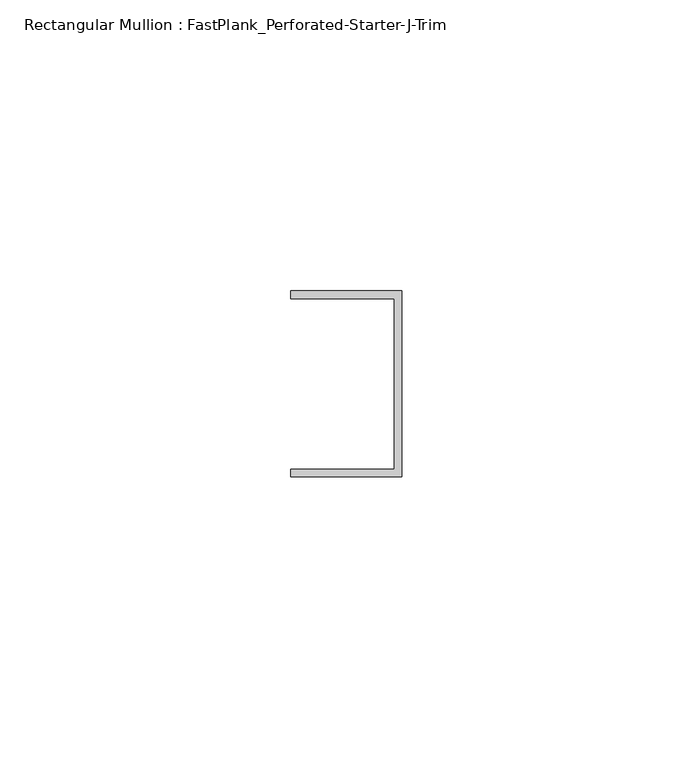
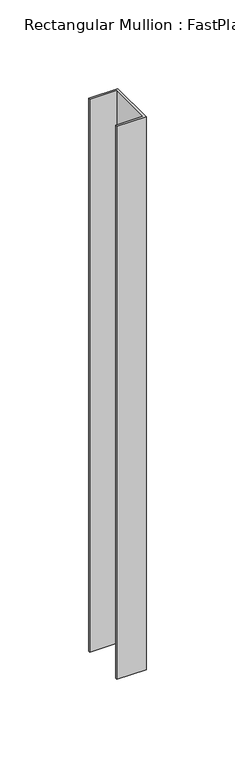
"""IFC4 building model written with IfcOpenShell, lengths in millimetres: member geometry, Rectangular Mullion : FastPlank_Perforated-Starter-J-Trim."""

import ifcopenshell
import ifcopenshell.guid

model = None  # the IFC model being written
_history = None  # IfcOwnerHistory: only IFC2X3 demands one
_inside = {}  # id of a spatial element -> (the spatial element, [elements in it])
_under = {}  # id of a project, library or spatial element -> (it, [spatial elements below it])
_declared = {}  # id of a project -> (the project, [libraries it declares])
_typed = {}  # id of a type object -> (the type object, [elements of that type])
_made_of = {}  # id of a material, layer set ... -> (it, [elements and type objects made of it])


def new_model(schema):
    """Start an empty IFC model of exactly this schema.

    Asked for "IFC4X3", IfcOpenShell would pick the latest addendum, in which some entities
    have other attributes; the version numbers below select the first issue.
    IFC2X3 requires an IfcOwnerHistory on every rooted entity: one is made here for all.
    """
    global model, _history
    if schema == "IFC4X3":
        model = ifcopenshell.file(schema_version=(4, 3, 0, 0))
    else:
        model = ifcopenshell.file(schema=schema)
    _inside.clear()
    _under.clear()
    _declared.clear()
    _typed.clear()
    _made_of.clear()
    _history = None
    if model.schema == "IFC2X3":
        org = make("IfcOrganization", Name="unknown")
        user = make(
            "IfcPersonAndOrganization",
            ThePerson=make("IfcPerson", FamilyName="unknown"),
            TheOrganization=org,
        )
        app = make(
            "IfcApplication",
            ApplicationDeveloper=org,
            Version="unknown",
            ApplicationFullName="unknown",
            ApplicationIdentifier="unknown",
        )
        _history = make(
            "IfcOwnerHistory",
            OwningUser=user,
            OwningApplication=app,
            ChangeAction="ADDED",
            CreationDate=0,
        )
    return model


def make(cls, **values):
    """One entity of the class cls with the attributes given. An attribute that is None is left unset."""
    return model.create_entity(
        cls, **{name: value for name, value in values.items() if value is not None}
    )


def rooted(cls, **values):
    """An entity with a GlobalId (a new one), such as an element, a storey or a relation."""
    return make(cls, GlobalId=ifcopenshell.guid.new(), OwnerHistory=_history, **values)


def si_unit(unit_type, name, prefix=None):
    """IfcSIUnit, for example si_unit("LENGTHUNIT", "METRE", prefix="MILLI")."""
    return make("IfcSIUnit", UnitType=unit_type, Prefix=prefix, Name=name)


def assignment(units):
    """IfcUnitAssignment: the units of a project."""
    return None if units is None else make("IfcUnitAssignment", Units=units)


def point(xyz):
    """IfcCartesianPoint."""
    return None if xyz is None else make("IfcCartesianPoint", Coordinates=xyz)


def direction(xyz):
    """IfcDirection."""
    return None if xyz is None else make("IfcDirection", DirectionRatios=xyz)


def frame(location, z_axis=None, x_axis=None):
    """IfcAxis2Placement3D, a coordinate frame: its origin and axes. An axis left out is left unset."""
    return make(
        "IfcAxis2Placement3D",
        Location=point(location),
        Axis=direction(z_axis),
        RefDirection=direction(x_axis),
    )


def origin():
    """The frame at (0, 0, 0) with its axes left unset."""
    return frame((0.0, 0.0, 0.0))


def place(relative_to, where):
    """IfcLocalPlacement: puts the frame where relative to a parent placement (None: the world)."""
    return make(
        "IfcLocalPlacement", PlacementRelTo=relative_to, RelativePlacement=where
    )


def context(
    kind, dimensions, precision=None, world=None, true_north=None, identifier=None
):
    """IfcGeometricRepresentationContext, for example the 3D "Model" context."""
    return make(
        "IfcGeometricRepresentationContext",
        ContextIdentifier=identifier,
        ContextType=kind,
        CoordinateSpaceDimension=dimensions,
        Precision=precision,
        WorldCoordinateSystem=world,
        TrueNorth=true_north,
    )


def project(units=None, contexts=None):
    """IfcProject with its units and contexts."""
    return rooted(
        "IfcProject",
        Name="project",
        RepresentationContexts=contexts,
        UnitsInContext=assignment(units),
    )


def spatial(cls, under=None, at=None, **own):
    """A site, building, storey or space (cls), placed at a placement, below another one or the project."""
    s = rooted(cls, ObjectPlacement=at, **own)
    if under is not None:
        _under.setdefault(under.id(), (under, []))[1].append(s)
    return s


def polyline(points):
    """IfcPolyline through the points."""
    return make("IfcPolyline", Points=[point(p) for p in points])


def outline(outer, holes=None, kind="AREA"):
    """IfcArbitraryClosedProfileDef: a profile drawn as a closed curve; with holes, ...WithVoids."""
    if holes is None:
        return make("IfcArbitraryClosedProfileDef", ProfileType=kind, OuterCurve=outer)
    return make(
        "IfcArbitraryProfileDefWithVoids",
        ProfileType=kind,
        OuterCurve=outer,
        InnerCurves=holes,
    )


def extrude(swept, where, along, depth):
    """IfcExtrudedAreaSolid: the profile swept, set in the frame where, extruded along a direction by depth."""
    return make(
        "IfcExtrudedAreaSolid",
        SweptArea=swept,
        Position=where,
        ExtrudedDirection=direction(along),
        Depth=depth,
    )


def shape(context_of_items, identifier, shape_type, items):
    """IfcShapeRepresentation: the items that make up one representation, for example the "Body"."""
    return make(
        "IfcShapeRepresentation",
        ContextOfItems=context_of_items,
        RepresentationIdentifier=identifier,
        RepresentationType=shape_type,
        Items=items,
    )


def source(mapping_origin, context_of_items, identifier, shape_type, items):
    """IfcRepresentationMap: a shape defined once, which mapped items show again and again."""
    return make(
        "IfcRepresentationMap",
        MappingOrigin=mapping_origin,
        MappedRepresentation=shape(context_of_items, identifier, shape_type, items),
    )


def transform(
    local_origin,
    x_axis=None,
    y_axis=None,
    z_axis=None,
    scale=None,
    scale2=None,
    scale3=None,
    uniform=True,
):
    """IfcCartesianTransformationOperator3D, or its non-uniform kind. x_axis, y_axis, z_axis: its Axis1, 2, 3."""
    if uniform:
        return make(
            "IfcCartesianTransformationOperator3D",
            Axis1=direction(x_axis),
            Axis2=direction(y_axis),
            LocalOrigin=point(local_origin),
            Scale=scale,
            Axis3=direction(z_axis),
        )
    return make(
        "IfcCartesianTransformationOperator3DnonUniform",
        Axis1=direction(x_axis),
        Axis2=direction(y_axis),
        LocalOrigin=point(local_origin),
        Scale=scale,
        Axis3=direction(z_axis),
        Scale2=scale2,
        Scale3=scale3,
    )


def mapped(mapping_source, mapping_target):
    """IfcMappedItem: shows the shape of a source again, moved by a transform."""
    return make(
        "IfcMappedItem", MappingSource=mapping_source, MappingTarget=mapping_target
    )


def made_of(thing, what):
    """Note that an element or type object is made of a material, layer set ...; save() writes the relation."""
    if what is not None:
        _made_of.setdefault(what.id(), (what, []))[1].append(thing)
    return thing


def element(
    cls,
    number,
    at=None,
    inside=None,
    cuts=None,
    type_object=None,
    material=None,
    context=None,
    identifier="Body",
    shape_type=None,
    held_by="IfcProductDefinitionShape",
    body=None,
    shapes=None,
    **own,
):
    """One element of the class cls, such as IfcWall. Its Tag is "e" and its number.

    at: its placement. inside: the storey or other place that contains it. cuts: it is an
    opening in that element (IfcRelVoidsElement). A single representation is given by context,
    identifier, shape_type and body (its items); several are given by shapes. held_by: the class
    of the entity that holds the representations. save() writes the other relations.
    """
    e = rooted(cls, Tag="e%d" % number, ObjectPlacement=at, **own)
    if body is not None:
        shapes = [shape(context, identifier, shape_type, body)]
    if shapes is not None:
        e.Representation = make(held_by, Representations=shapes)
    if inside is not None:
        _inside.setdefault(inside.id(), (inside, []))[1].append(e)
    if cuts is not None:
        rooted(
            "IfcRelVoidsElement", RelatingBuildingElement=cuts, RelatedOpeningElement=e
        )
    if type_object is not None:
        _typed.setdefault(type_object.id(), (type_object, []))[1].append(e)
    return made_of(e, material)


def aggregate(whole, parts):
    """IfcRelAggregates: a whole, such as a stair, and the parts it consists of."""
    return rooted("IfcRelAggregates", RelatingObject=whole, RelatedObjects=parts)


def save(model, path):
    """Write the relations noted so far, then the file.

    IfcRelAggregates (storeys below a building ...), IfcRelContainedInSpatialStructure (elements
    in a storey), IfcRelDefinesByType, IfcRelAssociatesMaterial and IfcRelDeclares: one each for
    every whole, place, type object, material and project.
    """
    for whole, parts in _under.values():
        aggregate(whole, parts)
    for where, things in _inside.values():
        rooted(
            "IfcRelContainedInSpatialStructure",
            RelatedElements=things,
            RelatingStructure=where,
        )
    for kind, things in _typed.values():
        rooted("IfcRelDefinesByType", RelatedObjects=things, RelatingType=kind)
    for what, things in _made_of.values():
        rooted("IfcRelAssociatesMaterial", RelatedObjects=things, RelatingMaterial=what)
    for by, libraries in _declared.values():
        rooted("IfcRelDeclares", RelatingContext=by, RelatedDefinitions=libraries)
    model.write(path)


def rectangular_mullion_fastplank_perforated_starter_j_trim_76a2169d(model_context):
    return source(origin(), model_context, "Body", "SweptSolid", [
        extrude(outline(polyline([(0.0, 10.2620691), (0.0, -21.6412691), (-19.05, -21.6412691), (-19.05, -20.3412717), (-1.3000189, -20.3412717), (-1.3000189, 8.9620717), (-19.05, 8.9620717), (-19.05, 10.2620691), (0.0, 10.2620691)])), frame((0.0, 0.0, -381.0), z_axis=(0.0, 0.0, 1.0), x_axis=(1.0, 0.0, 0.0)), (0.0, 0.0, 1.0), 381.0),
    ])


if __name__ == "__main__":
    model = new_model("IFC4")
    model_context = context("Model", 3, world=origin())
    ifc_project = project(units=[si_unit("LENGTHUNIT", "METRE", prefix="MILLI")], contexts=[model_context])
    site = spatial("IfcSite", under=ifc_project)
    building = spatial("IfcBuilding", under=site)
    placement = place(None, origin())
    rectangular_mullion_fastplank_perforated_starter_j_trim_shape = rectangular_mullion_fastplank_perforated_starter_j_trim_76a2169d(model_context)
    element("IfcMember", 1, ObjectType="Rectangular Mullion : FastPlank_Perforated-Starter-J-Trim", at=placement, inside=building, context=model_context, shape_type="MappedRepresentation", body=[
        mapped(rectangular_mullion_fastplank_perforated_starter_j_trim_shape, transform((0.0, 0.0, 0.0), x_axis=(1.0, 0.0, 0.0), y_axis=(0.0, 1.0, 0.0), z_axis=(0.0, 0.0, 1.0))),
    ])
    save(model, "model.ifc")
